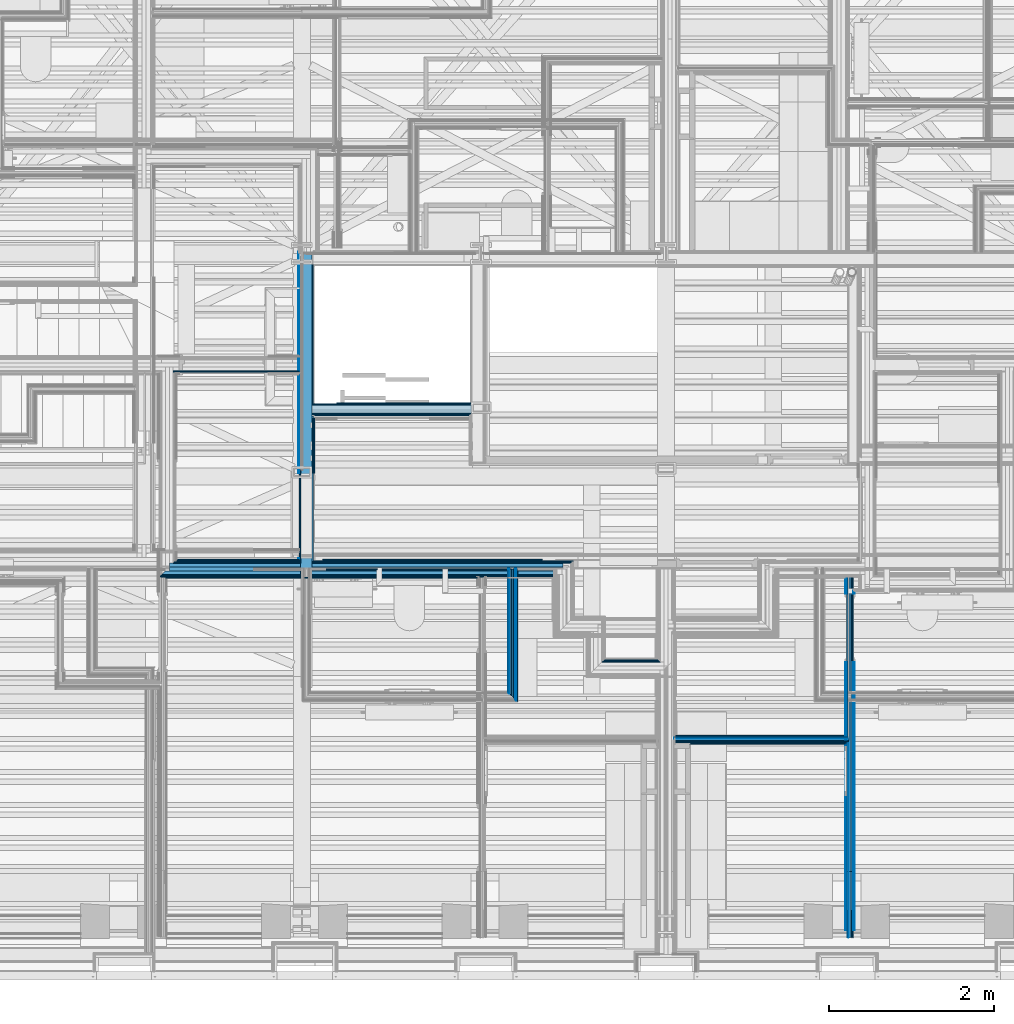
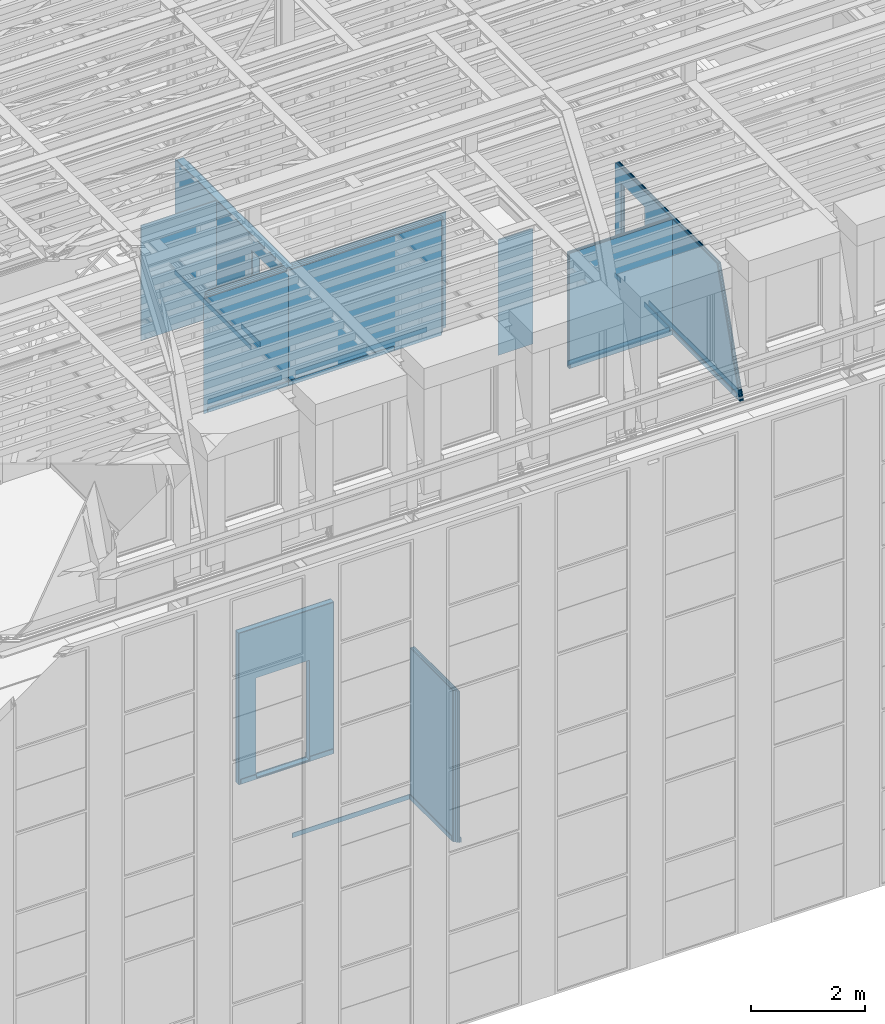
# One storey, part 34 of 183: 56 building element parts, 4 openings, 10 elements without a shape of their own.
"""IFC2X3 building model written with IfcOpenShell, lengths in metres."""

from ifc_helpers import new_model, entity, si_unit, converted_unit, derived_unit, money_unit, direction, frame, frame_2d, origin_with_axes, place, context, subcontext, project, spatial, polyline, rectangle, outline, extrude, clip, halfspace, material, type_object, element, aggregate, save


model = new_model("IFC2X3")

# Units and contexts
model_context = context("Model", 3, precision=1e-05, world=origin_with_axes(), true_north=direction((0.0, 1.0)))
body_context = subcontext(model_context, "Body", "Model", "MODEL_VIEW", scale=1.0)
ifc_project = project(units=[si_unit("LENGTHUNIT", "METRE"), si_unit("AREAUNIT", "SQUARE_METRE"), si_unit("VOLUMEUNIT", "CUBIC_METRE"), si_unit("ABSORBEDDOSEUNIT", "GRAY"), si_unit("AMOUNTOFSUBSTANCEUNIT", "MOLE"), si_unit("DOSEEQUIVALENTUNIT", "SIEVERT"), si_unit("ELECTRICCAPACITANCEUNIT", "FARAD"), si_unit("ELECTRICCHARGEUNIT", "COULOMB"), si_unit("ELECTRICCONDUCTANCEUNIT", "SIEMENS"), si_unit("ELECTRICCURRENTUNIT", "AMPERE"), si_unit("ELECTRICRESISTANCEUNIT", "OHM"), si_unit("ELECTRICVOLTAGEUNIT", "VOLT"), si_unit("ENERGYUNIT", "JOULE"), si_unit("FORCEUNIT", "NEWTON"), si_unit("FREQUENCYUNIT", "HERTZ"), si_unit("ILLUMINANCEUNIT", "LUX"), si_unit("INDUCTANCEUNIT", "HENRY"), si_unit("LUMINOUSFLUXUNIT", "LUMEN"), si_unit("LUMINOUSINTENSITYUNIT", "CANDELA"), si_unit("MAGNETICFLUXDENSITYUNIT", "TESLA"), si_unit("MAGNETICFLUXUNIT", "WEBER"), si_unit("MASSUNIT", "GRAM"), converted_unit("PLANEANGLEUNIT", "degree", entity("IfcReal", 0.0174532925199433), si_unit("PLANEANGLEUNIT", "RADIAN"), dimensions=[0, 0, 0, 0, 0, 0, 0]), si_unit("POWERUNIT", "WATT"), si_unit("PRESSUREUNIT", "PASCAL"), si_unit("RADIOACTIVITYUNIT", "BECQUEREL"), si_unit("SOLIDANGLEUNIT", "STERADIAN"), si_unit("THERMODYNAMICTEMPERATUREUNIT", "KELVIN"), si_unit("TIMEUNIT", "SECOND"), derived_unit("ACCELERATIONUNIT", [(si_unit("LENGTHUNIT", "METRE"), 1), (si_unit("TIMEUNIT", "SECOND"), -2)]), derived_unit("ANGULARVELOCITYUNIT", [(converted_unit("PLANEANGLEUNIT", "degree", entity("IfcReal", 0.0174532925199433), si_unit("PLANEANGLEUNIT", "RADIAN"), dimensions=[0, 0, 0, 0, 0, 0, 0]), 1), (si_unit("TIMEUNIT", "SECOND"), -1)]), derived_unit("CURVATUREUNIT", [(converted_unit("PLANEANGLEUNIT", "degree", entity("IfcReal", 0.0174532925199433), si_unit("PLANEANGLEUNIT", "RADIAN"), dimensions=[0, 0, 0, 0, 0, 0, 0]), 1), (si_unit("LENGTHUNIT", "METRE"), -1)]), derived_unit("DYNAMICVISCOSITYUNIT", [(si_unit("PRESSUREUNIT", "PASCAL"), 1), (si_unit("TIMEUNIT", "SECOND"), 1)]), derived_unit("HEATFLUXDENSITYUNIT", [(si_unit("POWERUNIT", "WATT"), 1), (si_unit("LENGTHUNIT", "METRE"), -2)]), derived_unit("HEATINGVALUEUNIT", [(si_unit("ENERGYUNIT", "JOULE"), 1), (si_unit("MASSUNIT", "GRAM"), -1)]), derived_unit("INTEGERCOUNTRATEUNIT", [(si_unit("TIMEUNIT", "SECOND"), -1)]), derived_unit("IONCONCENTRATIONUNIT", [(si_unit("MASSUNIT", "GRAM"), 1), (si_unit("VOLUMEUNIT", "CUBIC_METRE"), -1)]), derived_unit("ISOTHERMALMOISTURECAPACITYUNIT", [(si_unit("VOLUMEUNIT", "CUBIC_METRE"), 1), (si_unit("MASSUNIT", "GRAM"), -1)]), derived_unit("KINEMATICVISCOSITYUNIT", [(si_unit("AREAUNIT", "SQUARE_METRE"), 1), (si_unit("TIMEUNIT", "SECOND"), -1)]), derived_unit("LINEARFORCEUNIT", [(si_unit("FORCEUNIT", "NEWTON"), 1), (si_unit("LENGTHUNIT", "METRE"), -1)]), derived_unit("LINEARMOMENTUNIT", [(si_unit("FORCEUNIT", "NEWTON"), 1), (si_unit("LENGTHUNIT", "METRE"), -1)]), derived_unit("LINEARSTIFFNESSUNIT", [(si_unit("FORCEUNIT", "NEWTON"), 1), (si_unit("LENGTHUNIT", "METRE"), -1)]), derived_unit("LINEARVELOCITYUNIT", [(si_unit("LENGTHUNIT", "METRE"), 1), (si_unit("TIMEUNIT", "SECOND"), -1)]), derived_unit("LUMINOUSINTENSITYDISTRIBUTIONUNIT", [(si_unit("LUMINOUSINTENSITYUNIT", "CANDELA"), 1), (si_unit("LUMINOUSFLUXUNIT", "LUMEN"), -1)]), derived_unit("MASSDENSITYUNIT", [(si_unit("MASSUNIT", "GRAM"), 1), (si_unit("VOLUMEUNIT", "CUBIC_METRE"), -1)]), derived_unit("MASSFLOWRATEUNIT", [(si_unit("MASSUNIT", "GRAM"), 1), (si_unit("TIMEUNIT", "SECOND"), -1)]), derived_unit("MASSPERLENGTHUNIT", [(si_unit("MASSUNIT", "GRAM"), 1), (si_unit("LENGTHUNIT", "METRE"), -1)]), derived_unit("MODULUSOFELASTICITYUNIT", [(si_unit("FORCEUNIT", "NEWTON"), 1), (si_unit("AREAUNIT", "SQUARE_METRE"), -1)]), derived_unit("MODULUSOFLINEARSUBGRADEREACTIONUNIT", [(si_unit("FORCEUNIT", "NEWTON"), 1), (si_unit("LENGTHUNIT", "METRE"), -2)]), derived_unit("MODULUSOFROTATIONALSUBGRADEREACTIONUNIT", [(si_unit("FORCEUNIT", "NEWTON"), 1), (si_unit("LENGTHUNIT", "METRE"), 1)]), derived_unit("MODULUSOFSUBGRADEREACTIONUNIT", [(si_unit("FORCEUNIT", "NEWTON"), 1), (si_unit("VOLUMEUNIT", "CUBIC_METRE"), -1)]), derived_unit("MOISTUREDIFFUSIVITYUNIT", [(si_unit("VOLUMEUNIT", "CUBIC_METRE"), 1), (si_unit("TIMEUNIT", "SECOND"), -1)]), derived_unit("MOLECULARWEIGHTUNIT", [(si_unit("MASSUNIT", "GRAM"), 1), (si_unit("AMOUNTOFSUBSTANCEUNIT", "MOLE"), -1)]), derived_unit("PLANARFORCEUNIT", [(si_unit("FORCEUNIT", "NEWTON"), 1), (si_unit("LENGTHUNIT", "METRE"), -2)]), derived_unit("ROTATIONALFREQUENCYUNIT", [(si_unit("TIMEUNIT", "SECOND"), -1)]), derived_unit("ROTATIONALMASSUNIT", [(si_unit("MASSUNIT", "GRAM"), 1), (si_unit("LENGTHUNIT", "METRE"), 2)]), derived_unit("ROTATIONALSTIFFNESSUNIT", [(si_unit("FORCEUNIT", "NEWTON"), 1), (si_unit("LENGTHUNIT", "METRE"), 1), (converted_unit("PLANEANGLEUNIT", "degree", entity("IfcReal", 0.0174532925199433), si_unit("PLANEANGLEUNIT", "RADIAN"), dimensions=[0, 0, 0, 0, 0, 0, 0]), -1)]), derived_unit("SECTIONAREAINTEGRALUNIT", [(si_unit("LENGTHUNIT", "METRE"), 5)]), derived_unit("SECTIONMODULUSUNIT", [(si_unit("LENGTHUNIT", "METRE"), 3)]), derived_unit("SHEARMODULUSUNIT", [(si_unit("FORCEUNIT", "NEWTON"), 1), (si_unit("AREAUNIT", "SQUARE_METRE"), -1)]), derived_unit("SOUNDPOWERUNIT", [(si_unit("ENERGYUNIT", "JOULE"), 1), (si_unit("TIMEUNIT", "SECOND"), -1)]), derived_unit("SPECIFICHEATCAPACITYUNIT", [(si_unit("FORCEUNIT", "NEWTON"), 1), (si_unit("MASSUNIT", "GRAM"), -1), (si_unit("THERMODYNAMICTEMPERATUREUNIT", "KELVIN"), -1)]), derived_unit("TEMPERATUREGRADIENTUNIT", [(si_unit("THERMODYNAMICTEMPERATUREUNIT", "KELVIN"), 1), (si_unit("LENGTHUNIT", "METRE"), -1)]), derived_unit("THERMALADMITTANCEUNIT", [(si_unit("POWERUNIT", "WATT"), 1), (si_unit("AREAUNIT", "SQUARE_METRE"), -1), (si_unit("THERMODYNAMICTEMPERATUREUNIT", "KELVIN"), -1)]), derived_unit("THERMALCONDUCTANCEUNIT", [(si_unit("POWERUNIT", "WATT"), 1), (si_unit("LENGTHUNIT", "METRE"), -1), (si_unit("THERMODYNAMICTEMPERATUREUNIT", "KELVIN"), -1)]), derived_unit("THERMALEXPANSIONCOEFFICIENTUNIT", [(si_unit("THERMODYNAMICTEMPERATUREUNIT", "KELVIN"), -1)]), derived_unit("THERMALRESISTANCEUNIT", [(si_unit("AREAUNIT", "SQUARE_METRE"), 1), (si_unit("POWERUNIT", "WATT"), -1)]), derived_unit("THERMALTRANSMITTANCEUNIT", [(si_unit("POWERUNIT", "WATT"), 1), (si_unit("AREAUNIT", "SQUARE_METRE"), -1), (si_unit("THERMODYNAMICTEMPERATUREUNIT", "KELVIN"), -1)]), derived_unit("TORQUEUNIT", [(si_unit("FORCEUNIT", "NEWTON"), 1), (si_unit("LENGTHUNIT", "METRE"), 1)]), derived_unit("VAPORPERMEABILITYUNIT", [(si_unit("MASSUNIT", "GRAM"), 1), (si_unit("TIMEUNIT", "SECOND"), -1)]), derived_unit("VOLUMETRICFLOWRATEUNIT", [(si_unit("VOLUMEUNIT", "CUBIC_METRE"), 1), (si_unit("TIMEUNIT", "SECOND"), -1)]), derived_unit("WARPINGCONSTANTUNIT", [(si_unit("LENGTHUNIT", "METRE"), 6)]), derived_unit("WARPINGMOMENTUNIT", [(si_unit("FORCEUNIT", "NEWTON"), 1), (si_unit("LENGTHUNIT", "METRE"), 2)]), money_unit("GBP")], contexts=[model_context])

# Site, building, storey
site_placement = place(None, origin_with_axes())
site = spatial("IfcSite", under=ifc_project, at=site_placement, Name="Site", CompositionType="ELEMENT")
building_placement = place(site_placement, origin_with_axes())
building = spatial("IfcBuilding", under=site, at=building_placement, Name="Building01", CompositionType="ELEMENT")
storey_placement = place(building_placement, frame((0.0, 0.0, 5.15), z_axis=(0.0, 0.0, 1.0), x_axis=(1.0, 0.0, 0.0)))
storey = spatial("IfcBuildingStorey", under=building, at=storey_placement, Name="1F", CompositionType="ELEMENT", Elevation=5.15)

# Wall, opening, building element parts
wall_type_1 = type_object("IfcWallType", Name="SHE_A-Walls_Type04a_BlockworkWall_130mm", PredefinedType="NOTDEFINED")
wall_1_placement = place(storey_placement, frame((11.145, 6.965, 0.0), z_axis=(0.0, 0.0, 1.0), x_axis=(-1.0, 0.0, 0.0)))
wall_1 = element("IfcWall", 1, at=wall_1_placement, inside=storey, type_object=wall_type_1, Name="4A", ObjectType="SHE_A-Walls_Type04a_BlockworkWall_130mm")
opening_1_placement = place(wall_1_placement, frame((0.5, -0.03, 0.03), z_axis=(0.0, 0.0, 1.0), x_axis=(1.0, 0.0, 0.0)))
element("IfcOpeningElement", 2, at=opening_1_placement, cuts=wall_1, Name="Opening", ObjectType="Opening", context=body_context, shape_type="SweptSolid", body=[
    extrude(rectangle(XDim=2.14, YDim=1.08, at=frame_2d((-0.54, 1.07), x_axis=(0.0, 1.0))), frame((0.0, 0.0, 0.0), z_axis=(0.0, 1.0, 0.0), x_axis=(-1.0, 0.0, 0.0)), (0.0, 0.0, 1.0), 0.16),
    extrude(rectangle(XDim=1.133302, YDim=2.14, at=frame_2d((-0.566651, 1.07), x_axis=(-1.0, 0.0))), frame((0.0, 0.015, 0.0), z_axis=(0.0, 1.0, 0.0), x_axis=(-1.0, 0.0, 0.0)), (0.0, 0.0, 1.0), 0.015),
    extrude(rectangle(XDim=2.14, YDim=1.09, at=frame_2d((-0.545, 1.07), x_axis=(0.0, -1.0))), frame((0.0, 0.03, 0.0), z_axis=(0.0, 1.0, 0.0), x_axis=(-1.0, 0.0, 0.0)), (0.0, 0.0, 1.0), 0.1),
    extrude(rectangle(XDim=2.14, YDim=1.09, at=frame_2d((-0.545, 1.07), x_axis=(0.0, -1.0))), frame((0.0, 0.13, 0.0), z_axis=(0.0, 1.0, 0.0), x_axis=(-1.0, 0.0, 0.0)), (0.0, 0.0, 1.0), 0.015),
    extrude(rectangle(XDim=2.14, YDim=1.09, at=frame_2d((-0.545, 1.07), x_axis=(0.0, -1.0))), frame((0.0, 0.145, 0.0), z_axis=(0.0, 1.0, 0.0), x_axis=(-1.0, 0.0, 0.0)), (0.0, 0.0, 1.0), 0.015),
])
ifc_material_1 = material(Name="A_BSUK_Walls_Timber")
placement_1 = place(wall_1_placement, origin_with_axes())
building_element_part_1 = element("IfcBuildingElementPart", 3, at=placement_1, material=ifc_material_1, Name="1", context=body_context, shape_type="SweptSolid", body=[
    extrude(outline(polyline([(0.0, -0.015), (0.015, -0.03), (1.633302, -0.03), (1.633302, -0.015), (0.0, -0.015)])), frame((0.0, 0.0, 0.015), z_axis=(0.0, 0.0, 1.0), x_axis=(1.0, 0.0, 0.0)), (0.0, 0.0, 1.0), 0.1),
])
ifc_material_2 = material(Name="A_BSUK_WallInternal_Finishes_Plasterboard")
building_element_part_2 = element("IfcBuildingElementPart", 4, at=placement_1, material=ifc_material_2, Name="2", context=body_context, shape_type="SweptSolid", body=[
    extrude(outline(polyline([(1.93, 0.0), (0.0, 0.0), (0.015, -0.015), (1.93, -0.015), (1.93, 0.0)])), origin_with_axes(), (0.0, 0.0, 1.0), 3.24),
])
ifc_material_3 = material(Name="A_BSUK_WallsInternal_Block")
building_element_part_3 = element("IfcBuildingElementPart", 5, at=placement_1, material=ifc_material_3, Name="3", context=body_context, shape_type="SweptSolid", body=[
    extrude(rectangle(XDim=1.93, YDim=0.1, at=frame_2d((0.965, 0.05), x_axis=(-1.0, 0.0))), origin_with_axes(), (0.0, 0.0, 1.0), 3.24),
])
ifc_material_4 = material(Name="A_BSUK_WallInternal_Finishes_Plaster")
building_element_part_4 = element("IfcBuildingElementPart", 6, at=placement_1, material=ifc_material_4, Name="4", context=body_context, shape_type="SweptSolid", body=[
    extrude(outline(polyline([(1.93, 0.115), (0.015, 0.115), (0.0, 0.1), (1.93, 0.1), (1.93, 0.115)])), origin_with_axes(), (0.0, 0.0, 1.0), 3.24),
])
building_element_part_5 = element("IfcBuildingElementPart", 7, at=placement_1, material=ifc_material_1, Name="5", context=body_context, shape_type="SweptSolid", body=[
    extrude(outline(polyline([(1.9, 0.13), (0.03, 0.13), (0.015, 0.115), (1.9, 0.115), (1.9, 0.13)])), frame((0.0, 0.0, 0.015), z_axis=(0.0, 0.0, 1.0), x_axis=(1.0, 0.0, 0.0)), (0.0, 0.0, 1.0), 0.1),
])
aggregate(wall_1, [building_element_part_1, building_element_part_2, building_element_part_3, building_element_part_4, building_element_part_5])

# Wall, building element parts
wall_type_2 = type_object("IfcWallType", Name="SHE_A-Walls_Type05a_Partition_95mm_tall", PredefinedType="NOTDEFINED")
wall_2_placement = place(storey_placement, frame((11.652536, 3.42, 0.0), z_axis=(0.0, 0.0, 1.0), x_axis=(0.0, -1.0, 0.0)))
wall_2 = element("IfcWall", 8, at=wall_2_placement, inside=storey, type_object=wall_type_2, Name="5A", ObjectType="SHE_A-Walls_Type05a_Partition_95mm_tall")
placement_2 = place(wall_2_placement, origin_with_axes())
building_element_part_6 = element("IfcBuildingElementPart", 9, at=placement_2, material=ifc_material_1, Name="1", context=body_context, shape_type="SweptSolid", body=[
    extrude(outline(polyline([(-1.545, -0.075), (-0.075, -0.075), (-0.06, -0.06), (-1.545, -0.06), (-1.545, -0.075)])), frame((0.0, 0.0, 0.015), z_axis=(0.0, 0.0, 1.0), x_axis=(1.0, 0.0, 0.0)), (0.0, 0.0, 1.0), 0.1),
])
building_element_part_7 = element("IfcBuildingElementPart", 10, at=placement_2, material=ifc_material_2, Name="2", context=body_context, shape_type="SweptSolid", body=[
    extrude(outline(polyline([(-1.56, -0.06), (-0.06, -0.06), (-0.048, -0.048), (-1.56, -0.048), (-1.56, -0.06)])), origin_with_axes(), (0.0, 0.0, 1.0), 3.24),
])
ifc_material_5 = material(Name="Air Cavity")
building_element_part_8 = element("IfcBuildingElementPart", 11, at=placement_2, material=ifc_material_5, Name="3", context=body_context, shape_type="SweptSolid", body=[
    extrude(outline(polyline([(-1.56, -0.048), (-0.048, -0.048), (-0.025, -0.025), (-1.56, -0.025), (-1.56, -0.048)])), origin_with_axes(), (0.0, 0.0, 1.0), 3.24),
])
ifc_material_6 = material(Name="A_BSUK_Insulation")
building_element_part_9 = element("IfcBuildingElementPart", 12, at=placement_2, material=ifc_material_6, Name="4", context=body_context, shape_type="SweptSolid", body=[
    extrude(outline(polyline([(-1.56, -0.025), (-0.025, -0.025), (0.0, 0.0), (-1.56, 0.0), (-1.56, -0.025)])), origin_with_axes(), (0.0, 0.0, 1.0), 3.24),
])
building_element_part_10 = element("IfcBuildingElementPart", 13, at=placement_2, material=ifc_material_5, Name="5", context=body_context, shape_type="SweptSolid", body=[
    extrude(outline(polyline([(-1.56, 0.0), (0.0, 0.0), (0.023, 0.023), (-1.56, 0.023), (-1.56, 0.0)])), origin_with_axes(), (0.0, 0.0, 1.0), 3.24),
])
building_element_part_11 = element("IfcBuildingElementPart", 14, at=placement_2, material=ifc_material_2, Name="6", context=body_context, shape_type="SweptSolid", body=[
    extrude(outline(polyline([(-1.56, 0.023), (0.023, 0.023), (0.035, 0.035), (-1.56, 0.035), (-1.56, 0.023)])), origin_with_axes(), (0.0, 0.0, 1.0), 3.24),
])
building_element_part_12 = element("IfcBuildingElementPart", 15, at=placement_2, material=ifc_material_1, Name="7", context=body_context, shape_type="SweptSolid", body=[
    extrude(outline(polyline([(-1.56, 0.035), (0.035, 0.035), (0.05, 0.05), (-1.56, 0.05), (-1.56, 0.035)])), frame((0.0, 0.0, 0.015), z_axis=(0.0, 0.0, 1.0), x_axis=(1.0, 0.0, 0.0)), (0.0, 0.0, 1.0), 0.1),
])
aggregate(wall_2, [building_element_part_6, building_element_part_7, building_element_part_8, building_element_part_9, building_element_part_10, building_element_part_11, building_element_part_12])

# Wall, building element part
wall_type_3 = type_object("IfcWallType", Name="SHE_A-Walls_Type03a_BlockworkWall_170mm", PredefinedType="NOTDEFINED")
wall_3_placement = place(storey_placement, frame((9.06, 4.995, 0.0), z_axis=(0.0, 0.0, 1.0), x_axis=(1.0, 0.0, 0.0)))
wall_3 = element("IfcWall", 16, at=wall_3_placement, inside=storey, type_object=wall_type_3, Name="4B", ObjectType="SHE_A-Walls_Type03a_BlockworkWall_170mm")
building_element_part_13_placement = place(wall_3_placement, origin_with_axes())
building_element_part_13 = element("IfcBuildingElementPart", 17, at=building_element_part_13_placement, material=ifc_material_1, Name="4", context=body_context, shape_type="SweptSolid", body=[
    extrude(rectangle(XDim=2.385, YDim=0.015, at=frame_2d((1.340036, -0.0225), x_axis=(-1.0, 0.0))), frame((0.0, 0.0, 0.015), z_axis=(0.0, 0.0, 1.0), x_axis=(1.0, 0.0, 0.0)), (0.0, 0.0, 1.0), 0.1),
])
aggregate(wall_3, [building_element_part_13])

# Wall, openings, building element parts
wall_4_placement = place(storey_placement, frame((9.075, 8.805, 9.78), z_axis=(0.0, 0.0, 1.0), x_axis=(0.0, -1.0, 0.0)))
wall_4 = element("IfcWall", 18, at=wall_4_placement, inside=storey, type_object=wall_type_3, Name="4B", ObjectType="SHE_A-Walls_Type03a_BlockworkWall_170mm")
opening_2_placement = place(wall_4_placement, frame((2.667281, -0.03, 0.0), z_axis=(0.0, 0.0, 1.0), x_axis=(1.0, 0.0, 0.0)))
element("IfcOpeningElement", 19, at=opening_2_placement, cuts=wall_4, Name="Opening", ObjectType="Opening", context=body_context, shape_type="SweptSolid", body=[
    extrude(rectangle(XDim=0.984, YDim=2.142, at=frame_2d((-0.492, 1.071), x_axis=(1.0, 0.0))), frame((0.0, 0.0, 0.0), z_axis=(0.0, 1.0, 0.0), x_axis=(-1.0, 0.0, 0.0)), (0.0, 0.0, 1.0), 0.2),
])
opening_3_placement = place(wall_4_placement, frame((2.713, -0.03, 0.0), z_axis=(0.0, 0.0, 1.0), x_axis=(1.0, 0.0, 0.0)))
element("IfcOpeningElement", 20, at=opening_3_placement, cuts=wall_4, Name="Opening", ObjectType="Opening", context=body_context, shape_type="SweptSolid", body=[
    extrude(rectangle(XDim=2.142, YDim=0.984, at=frame_2d((-0.492, 1.071), x_axis=(0.0, -1.0))), frame((0.0, 0.0, 0.0), z_axis=(0.0, 1.0, 0.0), x_axis=(-1.0, 0.0, 0.0)), (0.0, 0.0, 1.0), 0.2),
])
placement_3 = place(wall_4_placement, origin_with_axes())
building_element_part_14 = element("IfcBuildingElementPart", 21, at=placement_3, material=ifc_material_1, Name="1", context=body_context, shape_type="SweptSolid", body=[
    extrude(rectangle(XDim=3.725, YDim=0.015, at=frame_2d((1.8475, -0.0225), x_axis=(-1.0, 0.0))), frame((0.0, 0.0, 0.015), z_axis=(0.0, 0.0, 1.0), x_axis=(1.0, 0.0, 0.0)), (0.0, 0.0, 1.0), 0.1),
])
building_element_part_15 = element("IfcBuildingElementPart", 22, at=placement_3, material=ifc_material_2, Name="2", context=body_context, shape_type="SweptSolid", body=[
    extrude(rectangle(XDim=3.755, YDim=0.015, at=frame_2d((1.8625, -0.0075), x_axis=(-1.0, 0.0))), origin_with_axes(), (0.0, 0.0, 1.0), 2.468),
])
building_element_part_16 = element("IfcBuildingElementPart", 23, at=placement_3, material=ifc_material_3, Name="3", context=body_context, shape_type="SweptSolid", body=[
    extrude(rectangle(XDim=3.85, YDim=0.14, at=frame_2d((1.925, 0.07), x_axis=(-1.0, 0.0))), origin_with_axes(), (0.0, 0.0, 1.0), 2.468),
])
building_element_part_17 = element("IfcBuildingElementPart", 24, at=placement_3, material=ifc_material_4, Name="4", context=body_context, shape_type="SweptSolid", body=[
    extrude(rectangle(XDim=1.685, YDim=0.015, at=frame_2d((0.9825, 0.1475), x_axis=(-1.0, 0.0))), origin_with_axes(), (0.0, 0.0, 1.0), 2.468),
])
building_element_part_18 = element("IfcBuildingElementPart", 25, at=placement_3, material=ifc_material_4, Name="5", context=body_context, shape_type="SweptSolid", body=[
    extrude(rectangle(XDim=1.766, YDim=0.015, at=frame_2d((2.857, 0.1475), x_axis=(-1.0, 0.0))), origin_with_axes(), (0.0, 0.0, 1.0), 2.468),
])
building_element_part_19 = element("IfcBuildingElementPart", 26, at=placement_3, material=ifc_material_1, Name="6", context=body_context, shape_type="SweptSolid", body=[
    extrude(outline(polyline([(3.61, 0.17), (1.998, 0.17), (1.998, 0.155), (3.625, 0.155), (3.61, 0.17)])), frame((0.0, 0.0, 0.015), z_axis=(0.0, 0.0, 1.0), x_axis=(1.0, 0.0, 0.0)), (0.0, 0.0, 1.0), 0.1),
])
aggregate(wall_4, [building_element_part_14, building_element_part_15, building_element_part_16, building_element_part_17, building_element_part_18, building_element_part_19])

# Wall, building element parts
wall_type_4 = type_object("IfcWallType", Name="SHE_A-Walls_Type05b_Partition_80mm", PredefinedType="NOTDEFINED")
wall_5_placement = place(storey_placement, frame((15.717, 2.922761, 9.78), z_axis=(0.0, 0.0, 1.0), x_axis=(-1.0, 0.0, 0.0)))
wall_5 = element("IfcWall", 27, at=wall_5_placement, inside=storey, type_object=wall_type_4, Name="5B", ObjectType="SHE_A-Walls_Type05b_Partition_80mm")
placement_4 = place(wall_5_placement, origin_with_axes())
building_element_part_20 = element("IfcBuildingElementPart", 28, at=placement_4, material=ifc_material_1, Name="1", context=body_context, shape_type="SweptSolid", body=[
    extrude(rectangle(XDim=2.06, YDim=0.015, at=frame_2d((1.072, -0.0345), x_axis=(-1.0, 0.0))), frame((0.0, 0.0, 0.015), z_axis=(0.0, 0.0, 1.0), x_axis=(1.0, 0.0, 0.0)), (0.0, 0.0, 1.0), 0.1),
])
building_element_part_21 = element("IfcBuildingElementPart", 29, at=placement_4, material=ifc_material_2, Name="2", context=body_context, shape_type="SweptSolid", body=[
    extrude(rectangle(XDim=2.105, YDim=0.015, at=frame_2d((1.0645, -0.0195), x_axis=(-1.0, 0.0))), origin_with_axes(), (0.0, 0.0, 1.0), 2.468),
])
building_element_part_22 = element("IfcBuildingElementPart", 30, at=placement_4, material=ifc_material_5, Name="3", context=body_context, shape_type="SweptSolid", body=[
    extrude(rectangle(XDim=2.105, YDim=0.012, at=frame_2d((1.0645, -0.006), x_axis=(-1.0, 0.0))), origin_with_axes(), (0.0, 0.0, 1.0), 2.468),
])
building_element_part_23 = element("IfcBuildingElementPart", 31, at=placement_4, material=ifc_material_6, Name="4", context=body_context, shape_type="SweptSolid", body=[
    extrude(rectangle(XDim=2.117, YDim=0.025, at=frame_2d((1.0585, 0.0125), x_axis=(-1.0, 0.0))), origin_with_axes(), (0.0, 0.0, 1.0), 2.468),
])
building_element_part_24 = element("IfcBuildingElementPart", 32, at=placement_4, material=ifc_material_5, Name="5", context=body_context, shape_type="SweptSolid", body=[
    extrude(rectangle(XDim=2.117, YDim=0.013, at=frame_2d((1.0585, 0.0315), x_axis=(-1.0, 0.0))), origin_with_axes(), (0.0, 0.0, 1.0), 2.468),
])
building_element_part_25 = element("IfcBuildingElementPart", 33, at=placement_4, material=ifc_material_2, Name="6", context=body_context, shape_type="SweptSolid", body=[
    extrude(rectangle(XDim=2.09, YDim=0.015, at=frame_2d((1.072, 0.0455), x_axis=(-1.0, 0.0))), origin_with_axes(), (0.0, 0.0, 1.0), 2.468),
])
building_element_part_26 = element("IfcBuildingElementPart", 34, at=placement_4, material=ifc_material_1, Name="7", context=body_context, shape_type="SweptSolid", body=[
    extrude(rectangle(XDim=2.06, YDim=0.015, at=frame_2d((1.072, 0.0605), x_axis=(-1.0, 0.0))), frame((0.0, 0.0, 0.015), z_axis=(0.0, 0.0, 1.0), x_axis=(1.0, 0.0, 0.0)), (0.0, 0.0, 1.0), 0.1),
])
aggregate(wall_5, [building_element_part_20, building_element_part_21, building_element_part_22, building_element_part_23, building_element_part_24, building_element_part_25, building_element_part_26])

# Wall, building element part
wall_type_5 = type_object("IfcWallType", Name="SHE_A-Walls_Type01d_Partywall_200mm_twin", PredefinedType="NOTDEFINED")
wall_6_placement = place(storey_placement, frame((9.06, 7.425061, 9.78), z_axis=(0.0, 0.0, 1.0), x_axis=(-1.0, 0.0, 0.0)))
wall_6 = element("IfcWall", 35, at=wall_6_placement, inside=storey, type_object=wall_type_5, Name="1D", ObjectType="SHE_A-Walls_Type01d_Partywall_200mm_twin")
building_element_part_27_placement = place(wall_6_placement, origin_with_axes())
building_element_part_27 = element("IfcBuildingElementPart", 36, at=building_element_part_27_placement, material=ifc_material_2, Name="11", context=body_context, shape_type="SweptSolid", body=[
    extrude(rectangle(XDim=0.015, YDim=1.53, at=frame_2d((0.765, 0.0525), x_axis=(0.0, -1.0))), origin_with_axes(), (0.0, 0.0, 1.0), 2.468),
])
aggregate(wall_6, [building_element_part_27])

# Wall, building element parts
wall_7_placement = place(storey_placement, frame((12.65, 3.78, 9.78), z_axis=(0.0, 0.0, 1.0), x_axis=(1.0, 0.0, 0.0)))
wall_7 = element("IfcWall", 37, at=wall_7_placement, inside=storey, type_object=wall_type_5, Name="1D", ObjectType="SHE_A-Walls_Type01d_Partywall_200mm_twin")
placement_5 = place(wall_7_placement, origin_with_axes())
building_element_part_28 = element("IfcBuildingElementPart", 38, at=placement_5, material=ifc_material_2, Name="7", context=body_context, shape_type="SweptSolid", body=[
    extrude(outline(polyline([(0.765, 0.085), (0.085, 0.085), (0.07, 0.07), (0.78, 0.07), (0.765, 0.085)])), origin_with_axes(), (0.0, 0.0, 1.0), 2.468),
])
building_element_part_29 = element("IfcBuildingElementPart", 39, at=placement_5, material=ifc_material_2, Name="8", context=body_context, shape_type="SweptSolid", body=[
    extrude(outline(polyline([(0.75, 0.1), (0.1, 0.1), (0.085, 0.085), (0.765, 0.085), (0.75, 0.1)])), origin_with_axes(), (0.0, 0.0, 1.0), 2.468),
])
aggregate(wall_7, [building_element_part_28, building_element_part_29])

wall_8_placement = place(storey_placement, frame((7.485, 4.955, 9.78), z_axis=(0.0, 0.0, 1.0), x_axis=(1.0, 0.0, 0.0)))
wall_8 = element("IfcWall", 40, at=wall_8_placement, inside=storey, type_object=wall_type_5, Name="1D", ObjectType="SHE_A-Walls_Type01d_Partywall_200mm_twin")
placement_6 = place(wall_8_placement, origin_with_axes())
building_element_part_30 = element("IfcBuildingElementPart", 41, at=placement_6, material=ifc_material_1, Name="1", context=body_context, shape_type="SweptSolid", body=[
    extrude(rectangle(XDim=1.635, YDim=0.015, at=frame_2d((0.7725, -0.0825), x_axis=(-1.0, 0.0))), frame((0.0, 0.0, 0.015), z_axis=(0.0, 0.0, 1.0), x_axis=(1.0, 0.0, 0.0)), (0.0, 0.0, 1.0), 0.1),
])
building_element_part_31 = element("IfcBuildingElementPart", 42, at=placement_6, material=ifc_material_2, Name="2", context=body_context, shape_type="SweptSolid", body=[
    extrude(outline(polyline([(1.59, -0.06), (-0.11, -0.06), (-0.125, -0.075), (1.59, -0.075), (1.59, -0.06)])), origin_with_axes(), (0.0, 0.0, 1.0), 2.468),
])
building_element_part_32 = element("IfcBuildingElementPart", 43, at=placement_6, material=ifc_material_2, Name="3", context=body_context, shape_type="SweptSolid", body=[
    extrude(outline(polyline([(1.59, -0.045), (-0.095, -0.045), (-0.11, -0.06), (1.59, -0.06), (1.59, -0.045)])), origin_with_axes(), (0.0, 0.0, 1.0), 2.468),
])
building_element_part_33 = element("IfcBuildingElementPart", 44, at=placement_6, material=ifc_material_5, Name="4", context=body_context, shape_type="SweptSolid", body=[
    extrude(outline(polyline([(1.59, 0.0), (-0.05, 0.0), (-0.095, -0.045), (1.59, -0.045), (1.59, 0.0)])), origin_with_axes(), (0.0, 0.0, 1.0), 2.468),
])
building_element_part_34 = element("IfcBuildingElementPart", 45, at=placement_6, material=ifc_material_6, Name="5", context=body_context, shape_type="SweptSolid", body=[
    extrude(rectangle(XDim=1.59, YDim=0.05, at=frame_2d((0.795, 0.025), x_axis=(-1.0, 0.0))), origin_with_axes(), (0.0, 0.0, 1.0), 2.468),
])
building_element_part_35 = element("IfcBuildingElementPart", 46, at=placement_6, material=ifc_material_5, Name="6", context=body_context, shape_type="SweptSolid", body=[
    extrude(rectangle(XDim=1.59, YDim=0.045, at=frame_2d((0.795, 0.0725), x_axis=(-1.0, 0.0))), origin_with_axes(), (0.0, 0.0, 1.0), 2.468),
])
building_element_part_36 = element("IfcBuildingElementPart", 47, at=placement_6, material=ifc_material_2, Name="7", context=body_context, shape_type="SweptSolid", body=[
    extrude(outline(polyline([(1.59, 0.11), (0.06, 0.11), (0.045, 0.095), (1.59, 0.095), (1.59, 0.11)])), origin_with_axes(), (0.0, 0.0, 1.0), 2.468),
])
building_element_part_37 = element("IfcBuildingElementPart", 48, at=placement_6, material=ifc_material_2, Name="8", context=body_context, shape_type="SweptSolid", body=[
    extrude(outline(polyline([(1.575, 0.125), (0.075, 0.125), (0.06, 0.11), (1.575, 0.11), (1.575, 0.125)])), origin_with_axes(), (0.0, 0.0, 1.0), 2.468),
])
building_element_part_38 = element("IfcBuildingElementPart", 49, at=placement_6, material=ifc_material_1, Name="9", context=body_context, shape_type="SweptSolid", body=[
    extrude(outline(polyline([(1.575, 0.14), (0.09, 0.14), (0.075, 0.125), (1.575, 0.125), (1.575, 0.14)])), frame((0.0, 0.0, 0.015), z_axis=(0.0, 0.0, 1.0), x_axis=(1.0, 0.0, 0.0)), (0.0, 0.0, 1.0), 0.1),
])
aggregate(wall_8, [building_element_part_30, building_element_part_31, building_element_part_32, building_element_part_33, building_element_part_34, building_element_part_35, building_element_part_36, building_element_part_37, building_element_part_38])

# Wall, opening, building element parts
wall_9_placement = place(storey_placement, frame((15.717, 4.88, 9.78), z_axis=(0.0, 0.0, 1.0), x_axis=(0.0, -1.0, 0.0)))
wall_9 = element("IfcWall", 50, at=wall_9_placement, inside=storey, type_object=wall_type_4, Name="5B", ObjectType="SHE_A-Walls_Type05b_Partition_80mm")
opening_4_placement = place(wall_9_placement, frame((0.198239, 0.068, 0.0), z_axis=(0.0, 0.0, 1.0), x_axis=(1.0, 0.0, 0.0)))
element("IfcOpeningElement", 51, at=opening_4_placement, cuts=wall_9, Name="Opening", ObjectType="Opening", context=body_context, shape_type="SweptSolid", body=[
    extrude(rectangle(XDim=2.142, YDim=0.834, at=frame_2d((0.417, 1.071), x_axis=(0.0, -1.0))), frame((0.0, 0.0, 0.0), z_axis=(0.0, -1.0, 0.0), x_axis=(1.0, 0.0, 0.0)), (0.0, 0.0, 1.0), 0.11),
])
placement_7 = place(wall_9_placement, origin_with_axes())
building_element_part_39 = element("IfcBuildingElementPart", 52, at=placement_7, material=ifc_material_1, Name="1", context=body_context, shape_type="SweptSolid", body=[
    extrude(rectangle(XDim=1.930239, YDim=0.015, at=frame_2d((0.965119, -0.0345), x_axis=(-1.0, 0.0))), frame((0.0, 0.0, 0.015), z_axis=(0.0, 0.0, 1.0), x_axis=(1.0, 0.0, 0.0)), (0.0, 0.0, 1.0), 0.1),
])
building_element_part_40 = element("IfcBuildingElementPart", 53, at=placement_7, material=ifc_material_1, Name="2", context=body_context, shape_type="SweptSolid", body=[
    extrude(rectangle(XDim=4.2762, YDim=0.015, at=frame_2d((2.1381, -0.0345), x_axis=(-1.0, 0.0))), frame((0.0, 0.0, 0.015), z_axis=(0.0, 0.0, 1.0), x_axis=(1.0, 0.0, 0.0)), (0.0, 0.0, 1.0), 0.1),
])
building_element_part_41 = element("IfcBuildingElementPart", 54, at=placement_7, material=ifc_material_2, Name="3", context=body_context, shape_type="SweptSolid", body=[
    extrude(rectangle(XDim=1.930239, YDim=0.015, at=frame_2d((0.965119, -0.0195), x_axis=(-1.0, 0.0))), origin_with_axes(), (0.0, 0.0, 1.0), 2.468),
])
building_element_part_42 = element("IfcBuildingElementPart", 55, at=placement_7, material=ifc_material_2, Name="4", context=body_context, shape_type="Clipping", body=[
    clip(extrude(rectangle(XDim=2.371419, YDim=0.015, at=frame_2d((3.180948, -0.0195), x_axis=(-1.0, 0.0))), origin_with_axes(), (0.0, 0.0, 1.0), 2.468), halfspace(frame((3.949679, 0.0, 1.283329), z_axis=(-0.95105652, 0.0, -0.30901699), x_axis=(0.0, -1.0, 0.0)), True)),
])
building_element_part_43 = element("IfcBuildingElementPart", 56, at=placement_7, material=ifc_material_5, Name="5", context=body_context, shape_type="Clipping", body=[
    clip(extrude(rectangle(XDim=2.371419, YDim=0.012, at=frame_2d((3.180948, -0.006), x_axis=(-1.0, 0.0))), origin_with_axes(), (0.0, 0.0, 1.0), 2.468), halfspace(frame((3.949679, 0.0, 1.283329), z_axis=(-0.95105652, 0.0, -0.30901699), x_axis=(0.0, -1.0, 0.0)), True)),
])
building_element_part_44 = element("IfcBuildingElementPart", 57, at=placement_7, material=ifc_material_6, Name="6", context=body_context, shape_type="Clipping", body=[
    clip(extrude(rectangle(XDim=4.366658, YDim=0.025, at=frame_2d((2.183329, 0.0125), x_axis=(-1.0, 0.0))), origin_with_axes(), (0.0, 0.0, 1.0), 2.468), halfspace(frame((3.949679, 0.0, 1.283329), z_axis=(-0.95105652, 0.0, -0.30901699), x_axis=(0.0, -1.0, 0.0)), True)),
])
building_element_part_45 = element("IfcBuildingElementPart", 58, at=placement_7, material=ifc_material_5, Name="7", context=body_context, shape_type="Clipping", body=[
    clip(extrude(rectangle(XDim=4.366658, YDim=0.013, at=frame_2d((2.183329, 0.0315), x_axis=(-1.0, 0.0))), origin_with_axes(), (0.0, 0.0, 1.0), 2.468), halfspace(frame((3.949679, 0.0, 1.283329), z_axis=(-0.95105652, 0.0, -0.30901699), x_axis=(0.0, -1.0, 0.0)), True)),
])
building_element_part_46 = element("IfcBuildingElementPart", 59, at=placement_7, material=ifc_material_2, Name="8", context=body_context, shape_type="Clipping", body=[
    clip(extrude(rectangle(XDim=4.366658, YDim=0.015, at=frame_2d((2.183329, 0.0455), x_axis=(-1.0, 0.0))), origin_with_axes(), (0.0, 0.0, 1.0), 2.468), halfspace(frame((3.949679, 0.0, 1.283329), z_axis=(-0.95105652, 0.0, -0.30901699), x_axis=(0.0, -1.0, 0.0)), True)),
])
building_element_part_47 = element("IfcBuildingElementPart", 60, at=placement_7, material=ifc_material_1, Name="9", context=body_context, shape_type="SweptSolid", body=[
    extrude(outline(polyline([(4.2762, 0.068), (0.178, 0.068), (0.163, 0.053), (4.2762, 0.053), (4.2762, 0.068)])), frame((0.0, 0.0, 0.015), z_axis=(0.0, 0.0, 1.0), x_axis=(1.0, 0.0, 0.0)), (0.0, 0.0, 1.0), 0.1),
])
aggregate(wall_9, [building_element_part_39, building_element_part_40, building_element_part_41, building_element_part_42, building_element_part_43, building_element_part_44, building_element_part_45, building_element_part_46, building_element_part_47])

# Wall, building element parts
wall_10_placement = place(storey_placement, frame((9.215, 4.955, 9.78), z_axis=(0.0, 0.0, 1.0), x_axis=(1.0, 0.0, 0.0)))
wall_10 = element("IfcWall", 61, at=wall_10_placement, inside=storey, type_object=wall_type_5, Name="1D", ObjectType="SHE_A-Walls_Type01d_Partywall_200mm_twin")
placement_8 = place(wall_10_placement, origin_with_axes())
building_element_part_48 = element("IfcBuildingElementPart", 62, at=placement_8, material=ifc_material_1, Name="1", context=body_context, shape_type="SweptSolid", body=[
    extrude(rectangle(XDim=2.14, YDim=0.015, at=frame_2d((0.93, -0.0825), x_axis=(-1.0, 0.0))), frame((0.0, 0.0, 0.015), z_axis=(0.0, 0.0, 1.0), x_axis=(1.0, 0.0, 0.0)), (0.0, 0.0, 1.0), 0.1),
])
building_element_part_49 = element("IfcBuildingElementPart", 63, at=placement_8, material=ifc_material_2, Name="3", context=body_context, shape_type="SweptSolid", body=[
    extrude(rectangle(XDim=3.1, YDim=0.015, at=frame_2d((1.41, -0.0675), x_axis=(-1.0, 0.0))), origin_with_axes(), (0.0, 0.0, 1.0), 2.468),
])
building_element_part_50 = element("IfcBuildingElementPart", 64, at=placement_8, material=ifc_material_2, Name="4", context=body_context, shape_type="SweptSolid", body=[
    extrude(rectangle(XDim=3.115, YDim=0.015, at=frame_2d((1.4175, -0.0525), x_axis=(-1.0, 0.0))), origin_with_axes(), (0.0, 0.0, 1.0), 2.468),
])
building_element_part_51 = element("IfcBuildingElementPart", 65, at=placement_8, material=ifc_material_5, Name="5", context=body_context, shape_type="SweptSolid", body=[
    extrude(rectangle(XDim=3.115, YDim=0.045, at=frame_2d((1.4175, -0.0225), x_axis=(-1.0, 0.0))), origin_with_axes(), (0.0, 0.0, 1.0), 2.468),
])
building_element_part_52 = element("IfcBuildingElementPart", 66, at=placement_8, material=ifc_material_6, Name="6", context=body_context, shape_type="SweptSolid", body=[
    extrude(rectangle(XDim=3.035, YDim=0.05, at=frame_2d((1.5175, 0.025), x_axis=(-1.0, 0.0))), origin_with_axes(), (0.0, 0.0, 1.0), 2.468),
])
building_element_part_53 = element("IfcBuildingElementPart", 67, at=placement_8, material=ifc_material_5, Name="7", context=body_context, shape_type="SweptSolid", body=[
    extrude(rectangle(XDim=3.035, YDim=0.045, at=frame_2d((1.5175, 0.0725), x_axis=(-1.0, 0.0))), origin_with_axes(), (0.0, 0.0, 1.0), 2.468),
])
building_element_part_54 = element("IfcBuildingElementPart", 68, at=placement_8, material=ifc_material_2, Name="8", context=body_context, shape_type="SweptSolid", body=[
    extrude(rectangle(XDim=3.145, YDim=0.015, at=frame_2d((1.5725, 0.1025), x_axis=(-1.0, 0.0))), origin_with_axes(), (0.0, 0.0, 1.0), 2.468),
])
building_element_part_55 = element("IfcBuildingElementPart", 69, at=placement_8, material=ifc_material_2, Name="9", context=body_context, shape_type="SweptSolid", body=[
    extrude(rectangle(XDim=3.145, YDim=0.015, at=frame_2d((1.5875, 0.1175), x_axis=(-1.0, 0.0))), origin_with_axes(), (0.0, 0.0, 1.0), 2.468),
])
building_element_part_56 = element("IfcBuildingElementPart", 70, at=placement_8, material=ifc_material_1, Name="10", context=body_context, shape_type="SweptSolid", body=[
    extrude(rectangle(XDim=2.660268, YDim=0.015, at=frame_2d((1.455934, 0.1325), x_axis=(-1.0, 0.0))), frame((0.0, 0.0, 0.015), z_axis=(0.0, 0.0, 1.0), x_axis=(1.0, 0.0, 0.0)), (0.0, 0.0, 1.0), 0.1),
])
aggregate(wall_10, [building_element_part_48, building_element_part_49, building_element_part_50, building_element_part_51, building_element_part_52, building_element_part_53, building_element_part_54, building_element_part_55, building_element_part_56])

save(model, "model.ifc")
